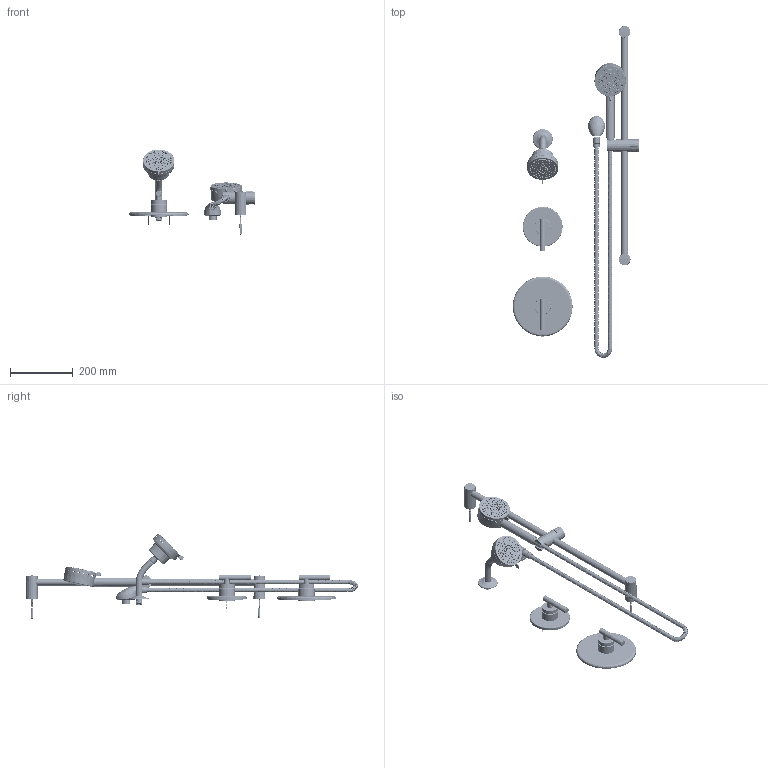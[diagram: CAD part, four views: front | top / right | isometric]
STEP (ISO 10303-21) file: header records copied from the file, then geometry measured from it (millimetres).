
FILE_DESCRIPTION (( 'STEP AP214' ), '1' );
FILE_NAME ('3595BTRM.STEP', '2025-01-15T07:26:09', ( '' ), ( '' ), 'SwSTEP 2.0', 'SolidWorks 2023', '' );
FILE_SCHEMA (( 'AUTOMOTIVE_DESIGN' ));
Length unit declared in the file: metre
Products named in the file (1): 3595BTRM
Bounding box: 402.68 x 1057.64 x 270.97 mm (x, y, z)
Surface area: 555799.1 mm2 (no closed solid volume)
Topology: 0 solids, 367 shells, 2582 faces, 9546 edges, 7202 vertices
Faces by surface type: cylinder 907, plane 580, bspline 527, cone 385, torus 133, sphere 50
Entity records: 650979 total; most frequent: CARTESIAN_POINT 580937, ORIENTED_EDGE 14201, DIRECTION 11416, EDGE_CURVE 9537, VERTEX_POINT 7199, AXIS2_PLACEMENT_3D 4385, B_SPLINE_CURVE_WITH_KNOTS 4153, EDGE_LOOP 3172
